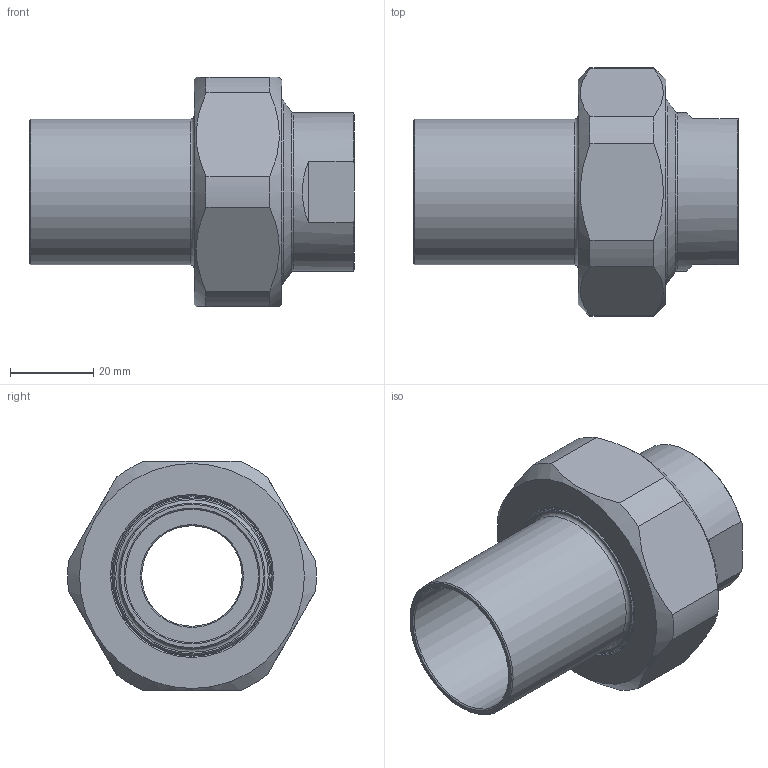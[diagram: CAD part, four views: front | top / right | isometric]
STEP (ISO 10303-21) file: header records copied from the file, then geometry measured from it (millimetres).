
FILE_DESCRIPTION(/* description */ (''),/* implementation_level */ '2;1');
FILE_NAME(/* name */ 'C:\Users\cad\Desktop\Zeichnungen neu von Ralph\Ganze Kupplungen\3D_Kupplung-R666-PE-G\3D_R666-PE-G-35-DN40-DN20_1711309434.stp',/* time_stamp */ '2021-07-16T08:50:28+02:00',/* author */ ('cad'),/* organization */ (''),/* preprocessor_version */ 'ST-DEVELOPER v18.1',/* originating_system */ 'Autodesk Inventor 2022',/* authorisation */ '');
FILE_SCHEMA (('AUTOMOTIVE_DESIGN { 1 0 10303 214 3 1 1 }'));
Length unit declared in the file: millimetre
Products named in the file (4): 3D_R666-PE-G-35-DN40-DN20_1711309434; 3D_R666-M-DN40_17113950; 3D_R666-G-DN20-DN40_17113545; 3D_R666-PE-35-DN40_17113480
Assembly tree (3 placements, depth 2):
  3D_R666-PE-G-35-DN40-DN20_1711309434
    3D_R666-M-DN40_17113950
    3D_R666-G-DN20-DN40_17113545
    3D_R666-PE-35-DN40_17113480
Bounding box: 78 x 59.67 x 55 mm (x, y, z)
Volume: 59144.5 mm3; surface area: 28286.7 mm2
Topology: 3 solids, 3 shells, 56 faces, 137 edges, 90 vertices
Faces by surface type: plane 19, cone 18, cylinder 15, torus 4
Full cylindrical faces by diameter (mm): 24.117 x1, 32 x1, 35 x1, 38 x2, 38.5 x1, 44 x1, 44.845 x1, 47.7 x1
Entity records: 1824 total; most frequent: DIRECTION 323, CARTESIAN_POINT 322, ORIENTED_EDGE 274, AXIS2_PLACEMENT_3D 139, EDGE_CURVE 137, VERTEX_POINT 90, CIRCLE 74, EDGE_LOOP 65
